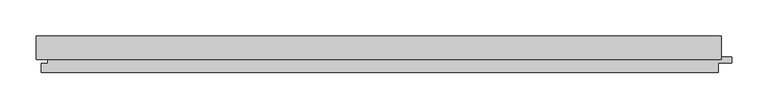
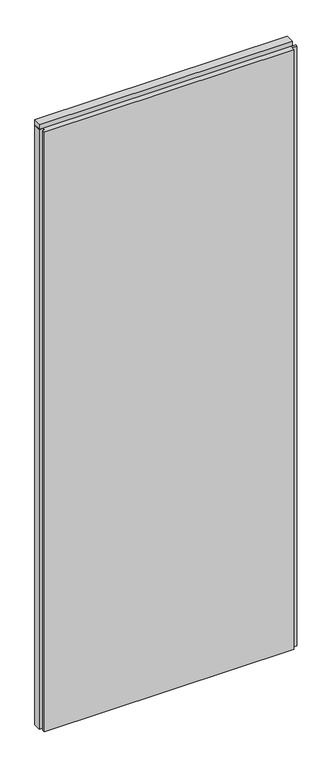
"""IFC4 building model written with IfcOpenShell, lengths in millimetres: plate geometry, Trimo_Qbiss Screen_Normal Panel-VERTICAL : HR - FB-F."""

import ifcopenshell
import ifcopenshell.guid

model = None  # the IFC model being written
_history = None  # IfcOwnerHistory: only IFC2X3 demands one
_inside = {}  # id of a spatial element -> (the spatial element, [elements in it])
_under = {}  # id of a project, library or spatial element -> (it, [spatial elements below it])
_declared = {}  # id of a project -> (the project, [libraries it declares])
_typed = {}  # id of a type object -> (the type object, [elements of that type])
_made_of = {}  # id of a material, layer set ... -> (it, [elements and type objects made of it])


def new_model(schema):
    """Start an empty IFC model of exactly this schema.

    Asked for "IFC4X3", IfcOpenShell would pick the latest addendum, in which some entities
    have other attributes; the version numbers below select the first issue.
    IFC2X3 requires an IfcOwnerHistory on every rooted entity: one is made here for all.
    """
    global model, _history
    if schema == "IFC4X3":
        model = ifcopenshell.file(schema_version=(4, 3, 0, 0))
    else:
        model = ifcopenshell.file(schema=schema)
    _inside.clear()
    _under.clear()
    _declared.clear()
    _typed.clear()
    _made_of.clear()
    _history = None
    if model.schema == "IFC2X3":
        org = make("IfcOrganization", Name="unknown")
        user = make(
            "IfcPersonAndOrganization",
            ThePerson=make("IfcPerson", FamilyName="unknown"),
            TheOrganization=org,
        )
        app = make(
            "IfcApplication",
            ApplicationDeveloper=org,
            Version="unknown",
            ApplicationFullName="unknown",
            ApplicationIdentifier="unknown",
        )
        _history = make(
            "IfcOwnerHistory",
            OwningUser=user,
            OwningApplication=app,
            ChangeAction="ADDED",
            CreationDate=0,
        )
    return model


def make(cls, **values):
    """One entity of the class cls with the attributes given. An attribute that is None is left unset."""
    return model.create_entity(
        cls, **{name: value for name, value in values.items() if value is not None}
    )


def rooted(cls, **values):
    """An entity with a GlobalId (a new one), such as an element, a storey or a relation."""
    return make(cls, GlobalId=ifcopenshell.guid.new(), OwnerHistory=_history, **values)


def si_unit(unit_type, name, prefix=None):
    """IfcSIUnit, for example si_unit("LENGTHUNIT", "METRE", prefix="MILLI")."""
    return make("IfcSIUnit", UnitType=unit_type, Prefix=prefix, Name=name)


def assignment(units):
    """IfcUnitAssignment: the units of a project."""
    return None if units is None else make("IfcUnitAssignment", Units=units)


def point(xyz):
    """IfcCartesianPoint."""
    return None if xyz is None else make("IfcCartesianPoint", Coordinates=xyz)


def direction(xyz):
    """IfcDirection."""
    return None if xyz is None else make("IfcDirection", DirectionRatios=xyz)


def frame(location, z_axis=None, x_axis=None):
    """IfcAxis2Placement3D, a coordinate frame: its origin and axes. An axis left out is left unset."""
    return make(
        "IfcAxis2Placement3D",
        Location=point(location),
        Axis=direction(z_axis),
        RefDirection=direction(x_axis),
    )


def origin():
    """The frame at (0, 0, 0) with its axes left unset."""
    return frame((0.0, 0.0, 0.0))


def place(relative_to, where):
    """IfcLocalPlacement: puts the frame where relative to a parent placement (None: the world)."""
    return make(
        "IfcLocalPlacement", PlacementRelTo=relative_to, RelativePlacement=where
    )


def context(
    kind, dimensions, precision=None, world=None, true_north=None, identifier=None
):
    """IfcGeometricRepresentationContext, for example the 3D "Model" context."""
    return make(
        "IfcGeometricRepresentationContext",
        ContextIdentifier=identifier,
        ContextType=kind,
        CoordinateSpaceDimension=dimensions,
        Precision=precision,
        WorldCoordinateSystem=world,
        TrueNorth=true_north,
    )


def project(units=None, contexts=None):
    """IfcProject with its units and contexts."""
    return rooted(
        "IfcProject",
        Name="project",
        RepresentationContexts=contexts,
        UnitsInContext=assignment(units),
    )


def spatial(cls, under=None, at=None, **own):
    """A site, building, storey or space (cls), placed at a placement, below another one or the project."""
    s = rooted(cls, ObjectPlacement=at, **own)
    if under is not None:
        _under.setdefault(under.id(), (under, []))[1].append(s)
    return s


def polyline(points):
    """IfcPolyline through the points."""
    return make("IfcPolyline", Points=[point(p) for p in points])


def outline(outer, holes=None, kind="AREA"):
    """IfcArbitraryClosedProfileDef: a profile drawn as a closed curve; with holes, ...WithVoids."""
    if holes is None:
        return make("IfcArbitraryClosedProfileDef", ProfileType=kind, OuterCurve=outer)
    return make(
        "IfcArbitraryProfileDefWithVoids",
        ProfileType=kind,
        OuterCurve=outer,
        InnerCurves=holes,
    )


def extrude(swept, where, along, depth):
    """IfcExtrudedAreaSolid: the profile swept, set in the frame where, extruded along a direction by depth."""
    return make(
        "IfcExtrudedAreaSolid",
        SweptArea=swept,
        Position=where,
        ExtrudedDirection=direction(along),
        Depth=depth,
    )


def shape(context_of_items, identifier, shape_type, items):
    """IfcShapeRepresentation: the items that make up one representation, for example the "Body"."""
    return make(
        "IfcShapeRepresentation",
        ContextOfItems=context_of_items,
        RepresentationIdentifier=identifier,
        RepresentationType=shape_type,
        Items=items,
    )


def source(mapping_origin, context_of_items, identifier, shape_type, items):
    """IfcRepresentationMap: a shape defined once, which mapped items show again and again."""
    return make(
        "IfcRepresentationMap",
        MappingOrigin=mapping_origin,
        MappedRepresentation=shape(context_of_items, identifier, shape_type, items),
    )


def transform(
    local_origin,
    x_axis=None,
    y_axis=None,
    z_axis=None,
    scale=None,
    scale2=None,
    scale3=None,
    uniform=True,
):
    """IfcCartesianTransformationOperator3D, or its non-uniform kind. x_axis, y_axis, z_axis: its Axis1, 2, 3."""
    if uniform:
        return make(
            "IfcCartesianTransformationOperator3D",
            Axis1=direction(x_axis),
            Axis2=direction(y_axis),
            LocalOrigin=point(local_origin),
            Scale=scale,
            Axis3=direction(z_axis),
        )
    return make(
        "IfcCartesianTransformationOperator3DnonUniform",
        Axis1=direction(x_axis),
        Axis2=direction(y_axis),
        LocalOrigin=point(local_origin),
        Scale=scale,
        Axis3=direction(z_axis),
        Scale2=scale2,
        Scale3=scale3,
    )


def mapped(mapping_source, mapping_target):
    """IfcMappedItem: shows the shape of a source again, moved by a transform."""
    return make(
        "IfcMappedItem", MappingSource=mapping_source, MappingTarget=mapping_target
    )


def made_of(thing, what):
    """Note that an element or type object is made of a material, layer set ...; save() writes the relation."""
    if what is not None:
        _made_of.setdefault(what.id(), (what, []))[1].append(thing)
    return thing


def element(
    cls,
    number,
    at=None,
    inside=None,
    cuts=None,
    type_object=None,
    material=None,
    context=None,
    identifier="Body",
    shape_type=None,
    held_by="IfcProductDefinitionShape",
    body=None,
    shapes=None,
    **own,
):
    """One element of the class cls, such as IfcWall. Its Tag is "e" and its number.

    at: its placement. inside: the storey or other place that contains it. cuts: it is an
    opening in that element (IfcRelVoidsElement). A single representation is given by context,
    identifier, shape_type and body (its items); several are given by shapes. held_by: the class
    of the entity that holds the representations. save() writes the other relations.
    """
    e = rooted(cls, Tag="e%d" % number, ObjectPlacement=at, **own)
    if body is not None:
        shapes = [shape(context, identifier, shape_type, body)]
    if shapes is not None:
        e.Representation = make(held_by, Representations=shapes)
    if inside is not None:
        _inside.setdefault(inside.id(), (inside, []))[1].append(e)
    if cuts is not None:
        rooted(
            "IfcRelVoidsElement", RelatingBuildingElement=cuts, RelatedOpeningElement=e
        )
    if type_object is not None:
        _typed.setdefault(type_object.id(), (type_object, []))[1].append(e)
    return made_of(e, material)


def aggregate(whole, parts):
    """IfcRelAggregates: a whole, such as a stair, and the parts it consists of."""
    return rooted("IfcRelAggregates", RelatingObject=whole, RelatedObjects=parts)


def save(model, path):
    """Write the relations noted so far, then the file.

    IfcRelAggregates (storeys below a building ...), IfcRelContainedInSpatialStructure (elements
    in a storey), IfcRelDefinesByType, IfcRelAssociatesMaterial and IfcRelDeclares: one each for
    every whole, place, type object, material and project.
    """
    for whole, parts in _under.values():
        aggregate(whole, parts)
    for where, things in _inside.values():
        rooted(
            "IfcRelContainedInSpatialStructure",
            RelatedElements=things,
            RelatingStructure=where,
        )
    for kind, things in _typed.values():
        rooted("IfcRelDefinesByType", RelatedObjects=things, RelatingType=kind)
    for what, things in _made_of.values():
        rooted("IfcRelAssociatesMaterial", RelatedObjects=things, RelatingMaterial=what)
    for by, libraries in _declared.values():
        rooted("IfcRelDeclares", RelatingContext=by, RelatedDefinitions=libraries)
    model.write(path)


def plate_0fcd52b7(model_context):
    return source(origin(), model_context, "Body", "SweptSolid", [
        extrude(outline(polyline([(-472.2, 93.9), (-472.2, 126.0), (472.2, 126.0), (472.2, 93.9), (-472.2, 93.9)])), frame((0.0, 0.0, 2390.5), z_axis=(0.0, 0.0, 1.0), x_axis=(1.0, 0.0, 0.0)), (0.0, 0.0, 1.0), 19.0),
        extrude(outline(polyline([(468.2, 97.0), (486.7, 97.0), (486.7, 89.0), (468.2, 89.0), (468.2, 76.0), (-465.2, 76.0), (-465.2, 88.0), (-456.7, 88.0), (-456.7, 98.0), (-472.2, 98.0), (-472.2, 126.0), (468.2, 126.0), (468.2, 97.0)])), frame((0.0, 0.0, 12.5), z_axis=(0.0, 0.0, 1.0), x_axis=(1.0, 0.0, 0.0)), (0.0, 0.0, 1.0), 2375.0),
    ])


if __name__ == "__main__":
    model = new_model("IFC4")
    model_context = context("Model", 3, world=origin())
    ifc_project = project(units=[si_unit("LENGTHUNIT", "METRE", prefix="MILLI")], contexts=[model_context])
    site = spatial("IfcSite", under=ifc_project)
    building = spatial("IfcBuilding", under=site)
    placement = place(None, origin())
    plate_shape = plate_0fcd52b7(model_context)
    element("IfcPlate", 1, ObjectType="Trimo_Qbiss Screen_Normal Panel-VERTICAL : HR - FB-F", at=placement, inside=building, context=model_context, shape_type="MappedRepresentation", body=[
        mapped(plate_shape, transform((0.0, 0.0, 0.0), x_axis=(1.0, 0.0, 0.0), y_axis=(0.0, 1.0, 0.0), z_axis=(0.0, 0.0, 1.0))),
    ])
    save(model, "model.ifc")
